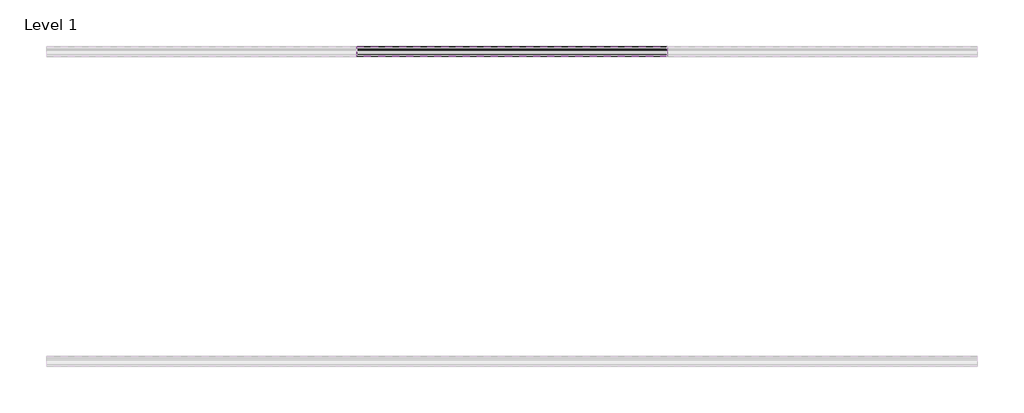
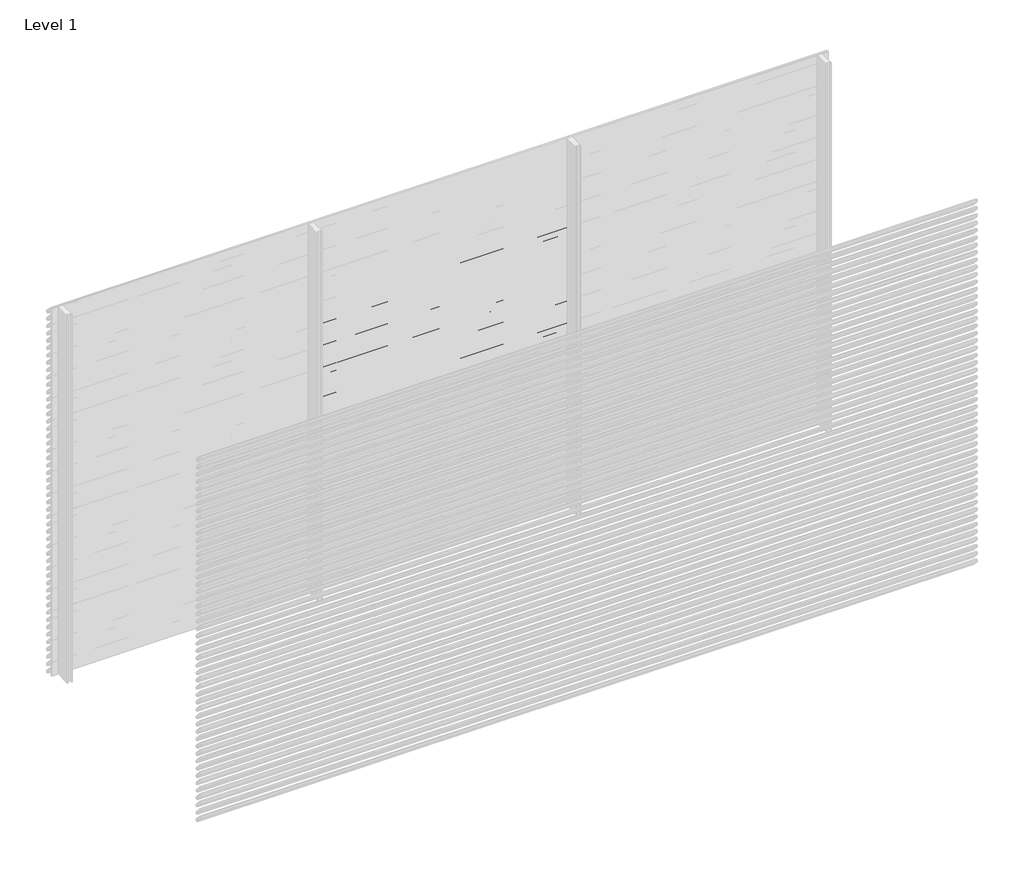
# One storey, part 40 of 153: 33 proxies.
"""IFC4 building model written with IfcOpenShell, lengths in millimetres."""

from ifc_helpers import new_model, si_unit, point, frame, frame_2d, origin, place, context, project, spatial, polyline, circle_curve, trimmed, segment, composite_curve, outline, extrude, element, save

model = new_model("IFC4")

# Units and contexts
model_context = context("Model", 3, world=origin())
ifc_project = project(units=[si_unit("LENGTHUNIT", "METRE", prefix="MILLI")], contexts=[model_context])

# Site, building, storey
site = spatial("IfcSite", under=ifc_project)
building = spatial("IfcBuilding", under=site)
storey = spatial("IfcBuildingStorey", under=building, Name="Level 1", Elevation=0.0)

# Proxies
placement = place(None, origin())
element("IfcBuildingElementProxy", 1, Name="Wall Sweeps", at=placement, inside=storey, context=model_context, shape_type="SweptSolid", body=[
    extrude(outline(composite_curve([segment(polyline([(13985.0540136, 2280.0), (13999.874191, 2278.7034025), (14049.0540136, 2225.0102749), (14049.0540136, 2213.6108187)]), True, "CONTINUOUS"), segment(trimmed(circle_curve(frame_2d((14045.7883652, 2213.897153)), 3.2781774), [point((14049.0540136, 2213.6108187))], [point((14046.4639442, 2210.6893438))], False, "CARTESIAN"), True, "CONTINUOUS"), segment(polyline([(14046.4639442, 2210.6893438), (14034.1895723, 2211.6282758), (13985.0540136, 2265.2730773), (13985.0540136, 2280.0)]), True, "CONTINUOUS")], self_intersect=False), holes=[composite_curve([segment(polyline([(13999.1621773, 2277.2599659), (13986.5540136, 2278.3630372), (13986.5540136, 2265.856213), (14034.8952036, 2213.0786805), (14046.3312542, 2212.2038762)]), True, "CONTINUOUS"), segment(trimmed(circle_curve(frame_2d((14045.7883652, 2213.897153)), 1.7781774), [point((14046.3312542, 2212.2038762))], [point((14047.5540136, 2213.6864389))], True, "CARTESIAN"), True, "CONTINUOUS"), segment(polyline([(14047.5540136, 2213.6864389), (14047.5540136, 2224.4271392), (13999.1621773, 2277.2599659)]), True, "CONTINUOUS")], self_intersect=False)]), frame((46966.6208098, 0.0, 0.0), z_axis=(1.0, 0.0, 0.0), x_axis=(0.0, 1.0, 0.0)), (0.0, 0.0, 1.0), 1999.9999998),
])
element("IfcBuildingElementProxy", 2, Name="Wall Sweeps", at=placement, inside=storey, context=model_context, shape_type="SweptSolid", body=[
    extrude(outline(composite_curve([segment(polyline([(13985.0540136, 2220.0), (13999.874191, 2218.7034025), (14049.0540136, 2165.0102749), (14049.0540136, 2153.6108187)]), True, "CONTINUOUS"), segment(trimmed(circle_curve(frame_2d((14045.7883652, 2153.897153)), 3.2781774), [point((14049.0540136, 2153.6108187))], [point((14046.4639442, 2150.6893438))], False, "CARTESIAN"), True, "CONTINUOUS"), segment(polyline([(14046.4639442, 2150.6893438), (14034.1895723, 2151.6282758), (13985.0540136, 2205.2730773), (13985.0540136, 2220.0)]), True, "CONTINUOUS")], self_intersect=False), holes=[composite_curve([segment(polyline([(13999.1621773, 2217.2599659), (13986.5540136, 2218.3630372), (13986.5540136, 2205.856213), (14034.8952036, 2153.0786805), (14046.3312542, 2152.2038762)]), True, "CONTINUOUS"), segment(trimmed(circle_curve(frame_2d((14045.7883652, 2153.897153)), 1.7781774), [point((14046.3312542, 2152.2038762))], [point((14047.5540136, 2153.6864389))], True, "CARTESIAN"), True, "CONTINUOUS"), segment(polyline([(14047.5540136, 2153.6864389), (14047.5540136, 2164.4271392), (13999.1621773, 2217.2599659)]), True, "CONTINUOUS")], self_intersect=False)]), frame((46966.6208098, 0.0, 0.0), z_axis=(1.0, 0.0, 0.0), x_axis=(0.0, 1.0, 0.0)), (0.0, 0.0, 1.0), 1999.9999998),
])
element("IfcBuildingElementProxy", 3, Name="Wall Sweeps", at=placement, inside=storey, context=model_context, shape_type="SweptSolid", body=[
    extrude(outline(composite_curve([segment(polyline([(13985.0540136, 2160.0), (13999.874191, 2158.7034025), (14049.0540136, 2105.0102749), (14049.0540136, 2093.6108187)]), True, "CONTINUOUS"), segment(trimmed(circle_curve(frame_2d((14045.7883652, 2093.897153)), 3.2781774), [point((14049.0540136, 2093.6108187))], [point((14046.4639442, 2090.6893438))], False, "CARTESIAN"), True, "CONTINUOUS"), segment(polyline([(14046.4639442, 2090.6893438), (14034.1895723, 2091.6282758), (13985.0540136, 2145.2730773), (13985.0540136, 2160.0)]), True, "CONTINUOUS")], self_intersect=False), holes=[composite_curve([segment(polyline([(13999.1621773, 2157.2599659), (13986.5540136, 2158.3630372), (13986.5540136, 2145.856213), (14034.8952036, 2093.0786805), (14046.3312542, 2092.2038762)]), True, "CONTINUOUS"), segment(trimmed(circle_curve(frame_2d((14045.7883652, 2093.897153)), 1.7781774), [point((14046.3312542, 2092.2038762))], [point((14047.5540136, 2093.6864389))], True, "CARTESIAN"), True, "CONTINUOUS"), segment(polyline([(14047.5540136, 2093.6864389), (14047.5540136, 2104.4271392), (13999.1621773, 2157.2599659)]), True, "CONTINUOUS")], self_intersect=False)]), frame((46966.6208098, 0.0, 0.0), z_axis=(1.0, 0.0, 0.0), x_axis=(0.0, 1.0, 0.0)), (0.0, 0.0, 1.0), 1999.9999998),
])
element("IfcBuildingElementProxy", 4, Name="Wall Sweeps", at=placement, inside=storey, context=model_context, shape_type="SweptSolid", body=[
    extrude(outline(composite_curve([segment(polyline([(13985.0540136, 2100.0), (13999.874191, 2098.7034025), (14049.0540136, 2045.0102749), (14049.0540136, 2033.6108187)]), True, "CONTINUOUS"), segment(trimmed(circle_curve(frame_2d((14045.7883652, 2033.897153)), 3.2781774), [point((14049.0540136, 2033.6108187))], [point((14046.4639442, 2030.6893438))], False, "CARTESIAN"), True, "CONTINUOUS"), segment(polyline([(14046.4639442, 2030.6893438), (14034.1895723, 2031.6282758), (13985.0540136, 2085.2730773), (13985.0540136, 2100.0)]), True, "CONTINUOUS")], self_intersect=False), holes=[composite_curve([segment(polyline([(13999.1621773, 2097.2599659), (13986.5540136, 2098.3630372), (13986.5540136, 2085.856213), (14034.8952036, 2033.0786805), (14046.3312542, 2032.2038762)]), True, "CONTINUOUS"), segment(trimmed(circle_curve(frame_2d((14045.7883652, 2033.897153)), 1.7781774), [point((14046.3312542, 2032.2038762))], [point((14047.5540136, 2033.6864389))], True, "CARTESIAN"), True, "CONTINUOUS"), segment(polyline([(14047.5540136, 2033.6864389), (14047.5540136, 2044.4271392), (13999.1621773, 2097.2599659)]), True, "CONTINUOUS")], self_intersect=False)]), frame((46966.6208098, 0.0, 0.0), z_axis=(1.0, 0.0, 0.0), x_axis=(0.0, 1.0, 0.0)), (0.0, 0.0, 1.0), 1999.9999998),
])
element("IfcBuildingElementProxy", 5, Name="Wall Sweeps", at=placement, inside=storey, context=model_context, shape_type="SweptSolid", body=[
    extrude(outline(composite_curve([segment(polyline([(13985.0540136, 2040.0), (13999.874191, 2038.7034025), (14049.0540136, 1985.0102749), (14049.0540136, 1973.6108187)]), True, "CONTINUOUS"), segment(trimmed(circle_curve(frame_2d((14045.7883652, 1973.897153)), 3.2781774), [point((14049.0540136, 1973.6108187))], [point((14046.4639442, 1970.6893438))], False, "CARTESIAN"), True, "CONTINUOUS"), segment(polyline([(14046.4639442, 1970.6893438), (14034.1895723, 1971.6282758), (13985.0540136, 2025.2730773), (13985.0540136, 2040.0)]), True, "CONTINUOUS")], self_intersect=False), holes=[composite_curve([segment(polyline([(13999.1621773, 2037.2599659), (13986.5540136, 2038.3630372), (13986.5540136, 2025.856213), (14034.8952036, 1973.0786805), (14046.3312542, 1972.2038762)]), True, "CONTINUOUS"), segment(trimmed(circle_curve(frame_2d((14045.7883652, 1973.897153)), 1.7781774), [point((14046.3312542, 1972.2038762))], [point((14047.5540136, 1973.6864389))], True, "CARTESIAN"), True, "CONTINUOUS"), segment(polyline([(14047.5540136, 1973.6864389), (14047.5540136, 1984.4271392), (13999.1621773, 2037.2599659)]), True, "CONTINUOUS")], self_intersect=False)]), frame((46966.6208098, 0.0, 0.0), z_axis=(1.0, 0.0, 0.0), x_axis=(0.0, 1.0, 0.0)), (0.0, 0.0, 1.0), 1999.9999998),
])
element("IfcBuildingElementProxy", 6, Name="Wall Sweeps", at=placement, inside=storey, context=model_context, shape_type="SweptSolid", body=[
    extrude(outline(composite_curve([segment(polyline([(13985.0540136, 1980.0), (13999.874191, 1978.7034025), (14049.0540136, 1925.0102749), (14049.0540136, 1913.6108187)]), True, "CONTINUOUS"), segment(trimmed(circle_curve(frame_2d((14045.7883652, 1913.897153)), 3.2781774), [point((14049.0540136, 1913.6108187))], [point((14046.4639442, 1910.6893438))], False, "CARTESIAN"), True, "CONTINUOUS"), segment(polyline([(14046.4639442, 1910.6893438), (14034.1895723, 1911.6282758), (13985.0540136, 1965.2730773), (13985.0540136, 1980.0)]), True, "CONTINUOUS")], self_intersect=False), holes=[composite_curve([segment(polyline([(13999.1621773, 1977.2599659), (13986.5540136, 1978.3630372), (13986.5540136, 1965.856213), (14034.8952036, 1913.0786805), (14046.3312542, 1912.2038762)]), True, "CONTINUOUS"), segment(trimmed(circle_curve(frame_2d((14045.7883652, 1913.897153)), 1.7781774), [point((14046.3312542, 1912.2038762))], [point((14047.5540136, 1913.6864389))], True, "CARTESIAN"), True, "CONTINUOUS"), segment(polyline([(14047.5540136, 1913.6864389), (14047.5540136, 1924.4271392), (13999.1621773, 1977.2599659)]), True, "CONTINUOUS")], self_intersect=False)]), frame((46966.6208098, 0.0, 0.0), z_axis=(1.0, 0.0, 0.0), x_axis=(0.0, 1.0, 0.0)), (0.0, 0.0, 1.0), 1999.9999998),
])
element("IfcBuildingElementProxy", 7, Name="Wall Sweeps", at=placement, inside=storey, context=model_context, shape_type="SweptSolid", body=[
    extrude(outline(composite_curve([segment(polyline([(13985.0540136, 1920.0), (13999.874191, 1918.7034025), (14049.0540136, 1865.0102749), (14049.0540136, 1853.6108187)]), True, "CONTINUOUS"), segment(trimmed(circle_curve(frame_2d((14045.7883652, 1853.897153)), 3.2781774), [point((14049.0540136, 1853.6108187))], [point((14046.4639442, 1850.6893438))], False, "CARTESIAN"), True, "CONTINUOUS"), segment(polyline([(14046.4639442, 1850.6893438), (14034.1895723, 1851.6282758), (13985.0540136, 1905.2730773), (13985.0540136, 1920.0)]), True, "CONTINUOUS")], self_intersect=False), holes=[composite_curve([segment(polyline([(13999.1621773, 1917.2599659), (13986.5540136, 1918.3630372), (13986.5540136, 1905.856213), (14034.8952036, 1853.0786805), (14046.3312542, 1852.2038762)]), True, "CONTINUOUS"), segment(trimmed(circle_curve(frame_2d((14045.7883652, 1853.897153)), 1.7781774), [point((14046.3312542, 1852.2038762))], [point((14047.5540136, 1853.6864389))], True, "CARTESIAN"), True, "CONTINUOUS"), segment(polyline([(14047.5540136, 1853.6864389), (14047.5540136, 1864.4271392), (13999.1621773, 1917.2599659)]), True, "CONTINUOUS")], self_intersect=False)]), frame((46966.6208098, 0.0, 0.0), z_axis=(1.0, 0.0, 0.0), x_axis=(0.0, 1.0, 0.0)), (0.0, 0.0, 1.0), 1999.9999998),
])
element("IfcBuildingElementProxy", 8, Name="Wall Sweeps", at=placement, inside=storey, context=model_context, shape_type="SweptSolid", body=[
    extrude(outline(composite_curve([segment(polyline([(13985.0540136, 1860.0), (13999.874191, 1858.7034025), (14049.0540136, 1805.0102749), (14049.0540136, 1793.6108187)]), True, "CONTINUOUS"), segment(trimmed(circle_curve(frame_2d((14045.7883652, 1793.897153)), 3.2781774), [point((14049.0540136, 1793.6108187))], [point((14046.4639442, 1790.6893438))], False, "CARTESIAN"), True, "CONTINUOUS"), segment(polyline([(14046.4639442, 1790.6893438), (14034.1895723, 1791.6282758), (13985.0540136, 1845.2730773), (13985.0540136, 1860.0)]), True, "CONTINUOUS")], self_intersect=False), holes=[composite_curve([segment(polyline([(13999.1621773, 1857.2599659), (13986.5540136, 1858.3630372), (13986.5540136, 1845.856213), (14034.8952036, 1793.0786805), (14046.3312542, 1792.2038762)]), True, "CONTINUOUS"), segment(trimmed(circle_curve(frame_2d((14045.7883652, 1793.897153)), 1.7781774), [point((14046.3312542, 1792.2038762))], [point((14047.5540136, 1793.6864389))], True, "CARTESIAN"), True, "CONTINUOUS"), segment(polyline([(14047.5540136, 1793.6864389), (14047.5540136, 1804.4271392), (13999.1621773, 1857.2599659)]), True, "CONTINUOUS")], self_intersect=False)]), frame((46966.6208098, 0.0, 0.0), z_axis=(1.0, 0.0, 0.0), x_axis=(0.0, 1.0, 0.0)), (0.0, 0.0, 1.0), 1999.9999998),
])
element("IfcBuildingElementProxy", 9, Name="Wall Sweeps", at=placement, inside=storey, context=model_context, shape_type="SweptSolid", body=[
    extrude(outline(composite_curve([segment(polyline([(13985.0540136, 1800.0), (13999.874191, 1798.7034025), (14049.0540136, 1745.0102749), (14049.0540136, 1733.6108187)]), True, "CONTINUOUS"), segment(trimmed(circle_curve(frame_2d((14045.7883652, 1733.897153)), 3.2781774), [point((14049.0540136, 1733.6108187))], [point((14046.4639442, 1730.6893438))], False, "CARTESIAN"), True, "CONTINUOUS"), segment(polyline([(14046.4639442, 1730.6893438), (14034.1895723, 1731.6282758), (13985.0540136, 1785.2730773), (13985.0540136, 1800.0)]), True, "CONTINUOUS")], self_intersect=False), holes=[composite_curve([segment(polyline([(13999.1621773, 1797.2599659), (13986.5540136, 1798.3630372), (13986.5540136, 1785.856213), (14034.8952036, 1733.0786805), (14046.3312542, 1732.2038762)]), True, "CONTINUOUS"), segment(trimmed(circle_curve(frame_2d((14045.7883652, 1733.897153)), 1.7781774), [point((14046.3312542, 1732.2038762))], [point((14047.5540136, 1733.6864389))], True, "CARTESIAN"), True, "CONTINUOUS"), segment(polyline([(14047.5540136, 1733.6864389), (14047.5540136, 1744.4271392), (13999.1621773, 1797.2599659)]), True, "CONTINUOUS")], self_intersect=False)]), frame((46966.6208098, 0.0, 0.0), z_axis=(1.0, 0.0, 0.0), x_axis=(0.0, 1.0, 0.0)), (0.0, 0.0, 1.0), 1999.9999998),
])
element("IfcBuildingElementProxy", 10, Name="Wall Sweeps", at=placement, inside=storey, context=model_context, shape_type="SweptSolid", body=[
    extrude(outline(composite_curve([segment(polyline([(13985.0540136, 1740.0), (13999.874191, 1738.7034025), (14049.0540136, 1685.0102749), (14049.0540136, 1673.6108187)]), True, "CONTINUOUS"), segment(trimmed(circle_curve(frame_2d((14045.7883652, 1673.897153)), 3.2781774), [point((14049.0540136, 1673.6108187))], [point((14046.4639442, 1670.6893438))], False, "CARTESIAN"), True, "CONTINUOUS"), segment(polyline([(14046.4639442, 1670.6893438), (14034.1895723, 1671.6282758), (13985.0540136, 1725.2730773), (13985.0540136, 1740.0)]), True, "CONTINUOUS")], self_intersect=False), holes=[composite_curve([segment(polyline([(13999.1621773, 1737.2599659), (13986.5540136, 1738.3630372), (13986.5540136, 1725.856213), (14034.8952036, 1673.0786805), (14046.3312542, 1672.2038762)]), True, "CONTINUOUS"), segment(trimmed(circle_curve(frame_2d((14045.7883652, 1673.897153)), 1.7781774), [point((14046.3312542, 1672.2038762))], [point((14047.5540136, 1673.6864389))], True, "CARTESIAN"), True, "CONTINUOUS"), segment(polyline([(14047.5540136, 1673.6864389), (14047.5540136, 1684.4271392), (13999.1621773, 1737.2599659)]), True, "CONTINUOUS")], self_intersect=False)]), frame((46966.6208098, 0.0, 0.0), z_axis=(1.0, 0.0, 0.0), x_axis=(0.0, 1.0, 0.0)), (0.0, 0.0, 1.0), 1999.9999998),
])
element("IfcBuildingElementProxy", 11, Name="Wall Sweeps", at=placement, inside=storey, context=model_context, shape_type="SweptSolid", body=[
    extrude(outline(composite_curve([segment(polyline([(13985.0540136, 1680.0), (13999.874191, 1678.7034025), (14049.0540136, 1625.0102749), (14049.0540136, 1613.6108187)]), True, "CONTINUOUS"), segment(trimmed(circle_curve(frame_2d((14045.7883652, 1613.897153)), 3.2781774), [point((14049.0540136, 1613.6108187))], [point((14046.4639442, 1610.6893438))], False, "CARTESIAN"), True, "CONTINUOUS"), segment(polyline([(14046.4639442, 1610.6893438), (14034.1895723, 1611.6282758), (13985.0540136, 1665.2730773), (13985.0540136, 1680.0)]), True, "CONTINUOUS")], self_intersect=False), holes=[composite_curve([segment(polyline([(13999.1621773, 1677.2599659), (13986.5540136, 1678.3630372), (13986.5540136, 1665.856213), (14034.8952036, 1613.0786805), (14046.3312542, 1612.2038762)]), True, "CONTINUOUS"), segment(trimmed(circle_curve(frame_2d((14045.7883652, 1613.897153)), 1.7781774), [point((14046.3312542, 1612.2038762))], [point((14047.5540136, 1613.6864389))], True, "CARTESIAN"), True, "CONTINUOUS"), segment(polyline([(14047.5540136, 1613.6864389), (14047.5540136, 1624.4271392), (13999.1621773, 1677.2599659)]), True, "CONTINUOUS")], self_intersect=False)]), frame((46966.6208098, 0.0, 0.0), z_axis=(1.0, 0.0, 0.0), x_axis=(0.0, 1.0, 0.0)), (0.0, 0.0, 1.0), 1999.9999998),
])
element("IfcBuildingElementProxy", 12, Name="Wall Sweeps", at=placement, inside=storey, context=model_context, shape_type="SweptSolid", body=[
    extrude(outline(composite_curve([segment(polyline([(13985.0540136, 1620.0), (13999.874191, 1618.7034025), (14049.0540136, 1565.0102749), (14049.0540136, 1553.6108187)]), True, "CONTINUOUS"), segment(trimmed(circle_curve(frame_2d((14045.7883652, 1553.897153)), 3.2781774), [point((14049.0540136, 1553.6108187))], [point((14046.4639442, 1550.6893438))], False, "CARTESIAN"), True, "CONTINUOUS"), segment(polyline([(14046.4639442, 1550.6893438), (14034.1895723, 1551.6282758), (13985.0540136, 1605.2730773), (13985.0540136, 1620.0)]), True, "CONTINUOUS")], self_intersect=False), holes=[composite_curve([segment(polyline([(13999.1621773, 1617.2599659), (13986.5540136, 1618.3630372), (13986.5540136, 1605.856213), (14034.8952036, 1553.0786805), (14046.3312542, 1552.2038762)]), True, "CONTINUOUS"), segment(trimmed(circle_curve(frame_2d((14045.7883652, 1553.897153)), 1.7781774), [point((14046.3312542, 1552.2038762))], [point((14047.5540136, 1553.6864389))], True, "CARTESIAN"), True, "CONTINUOUS"), segment(polyline([(14047.5540136, 1553.6864389), (14047.5540136, 1564.4271392), (13999.1621773, 1617.2599659)]), True, "CONTINUOUS")], self_intersect=False)]), frame((46966.6208098, 0.0, 0.0), z_axis=(1.0, 0.0, 0.0), x_axis=(0.0, 1.0, 0.0)), (0.0, 0.0, 1.0), 1999.9999998),
])
element("IfcBuildingElementProxy", 13, Name="Wall Sweeps", at=placement, inside=storey, context=model_context, shape_type="SweptSolid", body=[
    extrude(outline(composite_curve([segment(polyline([(13985.0540136, 1560.0), (13999.874191, 1558.7034025), (14049.0540136, 1505.0102749), (14049.0540136, 1493.6108187)]), True, "CONTINUOUS"), segment(trimmed(circle_curve(frame_2d((14045.7883652, 1493.897153)), 3.2781774), [point((14049.0540136, 1493.6108187))], [point((14046.4639442, 1490.6893438))], False, "CARTESIAN"), True, "CONTINUOUS"), segment(polyline([(14046.4639442, 1490.6893438), (14034.1895723, 1491.6282758), (13985.0540136, 1545.2730773), (13985.0540136, 1560.0)]), True, "CONTINUOUS")], self_intersect=False), holes=[composite_curve([segment(polyline([(13999.1621773, 1557.2599659), (13986.5540136, 1558.3630372), (13986.5540136, 1545.856213), (14034.8952036, 1493.0786805), (14046.3312542, 1492.2038762)]), True, "CONTINUOUS"), segment(trimmed(circle_curve(frame_2d((14045.7883652, 1493.897153)), 1.7781774), [point((14046.3312542, 1492.2038762))], [point((14047.5540136, 1493.6864389))], True, "CARTESIAN"), True, "CONTINUOUS"), segment(polyline([(14047.5540136, 1493.6864389), (14047.5540136, 1504.4271392), (13999.1621773, 1557.2599659)]), True, "CONTINUOUS")], self_intersect=False)]), frame((46966.6208098, 0.0, 0.0), z_axis=(1.0, 0.0, 0.0), x_axis=(0.0, 1.0, 0.0)), (0.0, 0.0, 1.0), 1999.9999998),
])
element("IfcBuildingElementProxy", 14, Name="Wall Sweeps", at=placement, inside=storey, context=model_context, shape_type="SweptSolid", body=[
    extrude(outline(composite_curve([segment(polyline([(13985.0540136, 1500.0), (13999.874191, 1498.7034025), (14049.0540136, 1445.0102749), (14049.0540136, 1433.6108187)]), True, "CONTINUOUS"), segment(trimmed(circle_curve(frame_2d((14045.7883652, 1433.897153)), 3.2781774), [point((14049.0540136, 1433.6108187))], [point((14046.4639442, 1430.6893438))], False, "CARTESIAN"), True, "CONTINUOUS"), segment(polyline([(14046.4639442, 1430.6893438), (14034.1895723, 1431.6282758), (13985.0540136, 1485.2730773), (13985.0540136, 1500.0)]), True, "CONTINUOUS")], self_intersect=False), holes=[composite_curve([segment(polyline([(13999.1621773, 1497.2599659), (13986.5540136, 1498.3630372), (13986.5540136, 1485.856213), (14034.8952036, 1433.0786805), (14046.3312542, 1432.2038762)]), True, "CONTINUOUS"), segment(trimmed(circle_curve(frame_2d((14045.7883652, 1433.897153)), 1.7781774), [point((14046.3312542, 1432.2038762))], [point((14047.5540136, 1433.6864389))], True, "CARTESIAN"), True, "CONTINUOUS"), segment(polyline([(14047.5540136, 1433.6864389), (14047.5540136, 1444.4271392), (13999.1621773, 1497.2599659)]), True, "CONTINUOUS")], self_intersect=False)]), frame((46966.6208098, 0.0, 0.0), z_axis=(1.0, 0.0, 0.0), x_axis=(0.0, 1.0, 0.0)), (0.0, 0.0, 1.0), 1999.9999998),
])
element("IfcBuildingElementProxy", 15, Name="Wall Sweeps", at=placement, inside=storey, context=model_context, shape_type="SweptSolid", body=[
    extrude(outline(composite_curve([segment(polyline([(13985.0540136, 1440.0), (13999.874191, 1438.7034025), (14049.0540136, 1385.0102749), (14049.0540136, 1373.6108187)]), True, "CONTINUOUS"), segment(trimmed(circle_curve(frame_2d((14045.7883652, 1373.897153)), 3.2781774), [point((14049.0540136, 1373.6108187))], [point((14046.4639442, 1370.6893438))], False, "CARTESIAN"), True, "CONTINUOUS"), segment(polyline([(14046.4639442, 1370.6893438), (14034.1895723, 1371.6282758), (13985.0540136, 1425.2730773), (13985.0540136, 1440.0)]), True, "CONTINUOUS")], self_intersect=False), holes=[composite_curve([segment(polyline([(13999.1621773, 1437.2599659), (13986.5540136, 1438.3630372), (13986.5540136, 1425.856213), (14034.8952036, 1373.0786805), (14046.3312542, 1372.2038762)]), True, "CONTINUOUS"), segment(trimmed(circle_curve(frame_2d((14045.7883652, 1373.897153)), 1.7781774), [point((14046.3312542, 1372.2038762))], [point((14047.5540136, 1373.6864389))], True, "CARTESIAN"), True, "CONTINUOUS"), segment(polyline([(14047.5540136, 1373.6864389), (14047.5540136, 1384.4271392), (13999.1621773, 1437.2599659)]), True, "CONTINUOUS")], self_intersect=False)]), frame((46966.6208098, 0.0, 0.0), z_axis=(1.0, 0.0, 0.0), x_axis=(0.0, 1.0, 0.0)), (0.0, 0.0, 1.0), 1999.9999998),
])
element("IfcBuildingElementProxy", 16, Name="Wall Sweeps", at=placement, inside=storey, context=model_context, shape_type="SweptSolid", body=[
    extrude(outline(composite_curve([segment(polyline([(13985.0540136, 1380.0), (13999.874191, 1378.7034025), (14049.0540136, 1325.0102749), (14049.0540136, 1313.6108187)]), True, "CONTINUOUS"), segment(trimmed(circle_curve(frame_2d((14045.7883652, 1313.897153)), 3.2781774), [point((14049.0540136, 1313.6108187))], [point((14046.4639442, 1310.6893438))], False, "CARTESIAN"), True, "CONTINUOUS"), segment(polyline([(14046.4639442, 1310.6893438), (14034.1895723, 1311.6282758), (13985.0540136, 1365.2730773), (13985.0540136, 1380.0)]), True, "CONTINUOUS")], self_intersect=False), holes=[composite_curve([segment(polyline([(13999.1621773, 1377.2599659), (13986.5540136, 1378.3630372), (13986.5540136, 1365.856213), (14034.8952036, 1313.0786805), (14046.3312542, 1312.2038762)]), True, "CONTINUOUS"), segment(trimmed(circle_curve(frame_2d((14045.7883652, 1313.897153)), 1.7781774), [point((14046.3312542, 1312.2038762))], [point((14047.5540136, 1313.6864389))], True, "CARTESIAN"), True, "CONTINUOUS"), segment(polyline([(14047.5540136, 1313.6864389), (14047.5540136, 1324.4271392), (13999.1621773, 1377.2599659)]), True, "CONTINUOUS")], self_intersect=False)]), frame((46966.6208098, 0.0, 0.0), z_axis=(1.0, 0.0, 0.0), x_axis=(0.0, 1.0, 0.0)), (0.0, 0.0, 1.0), 1999.9999998),
])
element("IfcBuildingElementProxy", 17, Name="Wall Sweeps", at=placement, inside=storey, context=model_context, shape_type="SweptSolid", body=[
    extrude(outline(composite_curve([segment(polyline([(13985.0540136, 1320.0), (13999.874191, 1318.7034025), (14049.0540136, 1265.0102749), (14049.0540136, 1253.6108187)]), True, "CONTINUOUS"), segment(trimmed(circle_curve(frame_2d((14045.7883652, 1253.897153)), 3.2781774), [point((14049.0540136, 1253.6108187))], [point((14046.4639442, 1250.6893438))], False, "CARTESIAN"), True, "CONTINUOUS"), segment(polyline([(14046.4639442, 1250.6893438), (14034.1895723, 1251.6282758), (13985.0540136, 1305.2730773), (13985.0540136, 1320.0)]), True, "CONTINUOUS")], self_intersect=False), holes=[composite_curve([segment(polyline([(13999.1621773, 1317.2599659), (13986.5540136, 1318.3630372), (13986.5540136, 1305.856213), (14034.8952036, 1253.0786805), (14046.3312542, 1252.2038762)]), True, "CONTINUOUS"), segment(trimmed(circle_curve(frame_2d((14045.7883652, 1253.897153)), 1.7781774), [point((14046.3312542, 1252.2038762))], [point((14047.5540136, 1253.6864389))], True, "CARTESIAN"), True, "CONTINUOUS"), segment(polyline([(14047.5540136, 1253.6864389), (14047.5540136, 1264.4271392), (13999.1621773, 1317.2599659)]), True, "CONTINUOUS")], self_intersect=False)]), frame((46966.6208098, 0.0, 0.0), z_axis=(1.0, 0.0, 0.0), x_axis=(0.0, 1.0, 0.0)), (0.0, 0.0, 1.0), 1999.9999998),
])
element("IfcBuildingElementProxy", 18, Name="Wall Sweeps", at=placement, inside=storey, context=model_context, shape_type="SweptSolid", body=[
    extrude(outline(composite_curve([segment(polyline([(13985.0540136, 1260.0), (13999.874191, 1258.7034025), (14049.0540136, 1205.0102749), (14049.0540136, 1193.6108187)]), True, "CONTINUOUS"), segment(trimmed(circle_curve(frame_2d((14045.7883652, 1193.897153)), 3.2781774), [point((14049.0540136, 1193.6108187))], [point((14046.4639442, 1190.6893438))], False, "CARTESIAN"), True, "CONTINUOUS"), segment(polyline([(14046.4639442, 1190.6893438), (14034.1895723, 1191.6282758), (13985.0540136, 1245.2730773), (13985.0540136, 1260.0)]), True, "CONTINUOUS")], self_intersect=False), holes=[composite_curve([segment(polyline([(13999.1621773, 1257.2599659), (13986.5540136, 1258.3630372), (13986.5540136, 1245.856213), (14034.8952036, 1193.0786805), (14046.3312542, 1192.2038762)]), True, "CONTINUOUS"), segment(trimmed(circle_curve(frame_2d((14045.7883652, 1193.897153)), 1.7781774), [point((14046.3312542, 1192.2038762))], [point((14047.5540136, 1193.6864389))], True, "CARTESIAN"), True, "CONTINUOUS"), segment(polyline([(14047.5540136, 1193.6864389), (14047.5540136, 1204.4271392), (13999.1621773, 1257.2599659)]), True, "CONTINUOUS")], self_intersect=False)]), frame((46966.6208098, 0.0, 0.0), z_axis=(1.0, 0.0, 0.0), x_axis=(0.0, 1.0, 0.0)), (0.0, 0.0, 1.0), 1999.9999998),
])
element("IfcBuildingElementProxy", 19, Name="Wall Sweeps", at=placement, inside=storey, context=model_context, shape_type="SweptSolid", body=[
    extrude(outline(composite_curve([segment(polyline([(13985.0540136, 1200.0), (13999.874191, 1198.7034025), (14049.0540136, 1145.0102749), (14049.0540136, 1133.6108187)]), True, "CONTINUOUS"), segment(trimmed(circle_curve(frame_2d((14045.7883652, 1133.897153)), 3.2781774), [point((14049.0540136, 1133.6108187))], [point((14046.4639442, 1130.6893438))], False, "CARTESIAN"), True, "CONTINUOUS"), segment(polyline([(14046.4639442, 1130.6893438), (14034.1895723, 1131.6282758), (13985.0540136, 1185.2730773), (13985.0540136, 1200.0)]), True, "CONTINUOUS")], self_intersect=False), holes=[composite_curve([segment(polyline([(13999.1621773, 1197.2599659), (13986.5540136, 1198.3630372), (13986.5540136, 1185.856213), (14034.8952036, 1133.0786805), (14046.3312542, 1132.2038762)]), True, "CONTINUOUS"), segment(trimmed(circle_curve(frame_2d((14045.7883652, 1133.897153)), 1.7781774), [point((14046.3312542, 1132.2038762))], [point((14047.5540136, 1133.6864389))], True, "CARTESIAN"), True, "CONTINUOUS"), segment(polyline([(14047.5540136, 1133.6864389), (14047.5540136, 1144.4271392), (13999.1621773, 1197.2599659)]), True, "CONTINUOUS")], self_intersect=False)]), frame((46966.6208098, 0.0, 0.0), z_axis=(1.0, 0.0, 0.0), x_axis=(0.0, 1.0, 0.0)), (0.0, 0.0, 1.0), 1999.9999998),
])
element("IfcBuildingElementProxy", 20, Name="Wall Sweeps", at=placement, inside=storey, context=model_context, shape_type="SweptSolid", body=[
    extrude(outline(composite_curve([segment(polyline([(13985.0540136, 1140.0), (13999.874191, 1138.7034025), (14049.0540136, 1085.0102749), (14049.0540136, 1073.6108187)]), True, "CONTINUOUS"), segment(trimmed(circle_curve(frame_2d((14045.7883652, 1073.897153)), 3.2781774), [point((14049.0540136, 1073.6108187))], [point((14046.4639442, 1070.6893438))], False, "CARTESIAN"), True, "CONTINUOUS"), segment(polyline([(14046.4639442, 1070.6893438), (14034.1895723, 1071.6282758), (13985.0540136, 1125.2730773), (13985.0540136, 1140.0)]), True, "CONTINUOUS")], self_intersect=False), holes=[composite_curve([segment(polyline([(13999.1621773, 1137.2599659), (13986.5540136, 1138.3630372), (13986.5540136, 1125.856213), (14034.8952036, 1073.0786805), (14046.3312542, 1072.2038762)]), True, "CONTINUOUS"), segment(trimmed(circle_curve(frame_2d((14045.7883652, 1073.897153)), 1.7781774), [point((14046.3312542, 1072.2038762))], [point((14047.5540136, 1073.6864389))], True, "CARTESIAN"), True, "CONTINUOUS"), segment(polyline([(14047.5540136, 1073.6864389), (14047.5540136, 1084.4271392), (13999.1621773, 1137.2599659)]), True, "CONTINUOUS")], self_intersect=False)]), frame((46966.6208098, 0.0, 0.0), z_axis=(1.0, 0.0, 0.0), x_axis=(0.0, 1.0, 0.0)), (0.0, 0.0, 1.0), 1999.9999998),
])
element("IfcBuildingElementProxy", 21, Name="Wall Sweeps", at=placement, inside=storey, context=model_context, shape_type="SweptSolid", body=[
    extrude(outline(composite_curve([segment(polyline([(13985.0540136, 1080.0), (13999.874191, 1078.7034025), (14049.0540136, 1025.0102749), (14049.0540136, 1013.6108187)]), True, "CONTINUOUS"), segment(trimmed(circle_curve(frame_2d((14045.7883652, 1013.897153)), 3.2781774), [point((14049.0540136, 1013.6108187))], [point((14046.4639442, 1010.6893438))], False, "CARTESIAN"), True, "CONTINUOUS"), segment(polyline([(14046.4639442, 1010.6893438), (14034.1895723, 1011.6282758), (13985.0540136, 1065.2730773), (13985.0540136, 1080.0)]), True, "CONTINUOUS")], self_intersect=False), holes=[composite_curve([segment(polyline([(13999.1621773, 1077.2599659), (13986.5540136, 1078.3630372), (13986.5540136, 1065.856213), (14034.8952036, 1013.0786805), (14046.3312542, 1012.2038762)]), True, "CONTINUOUS"), segment(trimmed(circle_curve(frame_2d((14045.7883652, 1013.897153)), 1.7781774), [point((14046.3312542, 1012.2038762))], [point((14047.5540136, 1013.6864389))], True, "CARTESIAN"), True, "CONTINUOUS"), segment(polyline([(14047.5540136, 1013.6864389), (14047.5540136, 1024.4271392), (13999.1621773, 1077.2599659)]), True, "CONTINUOUS")], self_intersect=False)]), frame((46966.6208098, 0.0, 0.0), z_axis=(1.0, 0.0, 0.0), x_axis=(0.0, 1.0, 0.0)), (0.0, 0.0, 1.0), 1999.9999998),
])
element("IfcBuildingElementProxy", 22, Name="Wall Sweeps", at=placement, inside=storey, context=model_context, shape_type="SweptSolid", body=[
    extrude(outline(composite_curve([segment(polyline([(13985.0540136, 1020.0), (13999.874191, 1018.7034025), (14049.0540136, 965.0102749), (14049.0540136, 953.6108187)]), True, "CONTINUOUS"), segment(trimmed(circle_curve(frame_2d((14045.7883652, 953.897153)), 3.2781774), [point((14049.0540136, 953.6108187))], [point((14046.4639442, 950.6893438))], False, "CARTESIAN"), True, "CONTINUOUS"), segment(polyline([(14046.4639442, 950.6893438), (14034.1895723, 951.6282758), (13985.0540136, 1005.2730773), (13985.0540136, 1020.0)]), True, "CONTINUOUS")], self_intersect=False), holes=[composite_curve([segment(polyline([(13999.1621773, 1017.2599659), (13986.5540136, 1018.3630372), (13986.5540136, 1005.856213), (14034.8952036, 953.0786805), (14046.3312542, 952.2038762)]), True, "CONTINUOUS"), segment(trimmed(circle_curve(frame_2d((14045.7883652, 953.897153)), 1.7781774), [point((14046.3312542, 952.2038762))], [point((14047.5540136, 953.6864389))], True, "CARTESIAN"), True, "CONTINUOUS"), segment(polyline([(14047.5540136, 953.6864389), (14047.5540136, 964.4271392), (13999.1621773, 1017.2599659)]), True, "CONTINUOUS")], self_intersect=False)]), frame((46966.6208098, 0.0, 0.0), z_axis=(1.0, 0.0, 0.0), x_axis=(0.0, 1.0, 0.0)), (0.0, 0.0, 1.0), 1999.9999998),
])
element("IfcBuildingElementProxy", 23, Name="Wall Sweeps", at=placement, inside=storey, context=model_context, shape_type="SweptSolid", body=[
    extrude(outline(composite_curve([segment(polyline([(13985.0540136, 960.0), (13999.874191, 958.7034025), (14049.0540136, 905.0102749), (14049.0540136, 893.6108187)]), True, "CONTINUOUS"), segment(trimmed(circle_curve(frame_2d((14045.7883652, 893.897153)), 3.2781774), [point((14049.0540136, 893.6108187))], [point((14046.4639442, 890.6893438))], False, "CARTESIAN"), True, "CONTINUOUS"), segment(polyline([(14046.4639442, 890.6893438), (14034.1895723, 891.6282758), (13985.0540136, 945.2730773), (13985.0540136, 960.0)]), True, "CONTINUOUS")], self_intersect=False), holes=[composite_curve([segment(polyline([(13999.1621773, 957.2599659), (13986.5540136, 958.3630372), (13986.5540136, 945.856213), (14034.8952036, 893.0786805), (14046.3312542, 892.2038762)]), True, "CONTINUOUS"), segment(trimmed(circle_curve(frame_2d((14045.7883652, 893.897153)), 1.7781774), [point((14046.3312542, 892.2038762))], [point((14047.5540136, 893.6864389))], True, "CARTESIAN"), True, "CONTINUOUS"), segment(polyline([(14047.5540136, 893.6864389), (14047.5540136, 904.4271392), (13999.1621773, 957.2599659)]), True, "CONTINUOUS")], self_intersect=False)]), frame((46966.6208098, 0.0, 0.0), z_axis=(1.0, 0.0, 0.0), x_axis=(0.0, 1.0, 0.0)), (0.0, 0.0, 1.0), 1999.9999998),
])
element("IfcBuildingElementProxy", 24, Name="Wall Sweeps", at=placement, inside=storey, context=model_context, shape_type="SweptSolid", body=[
    extrude(outline(composite_curve([segment(polyline([(13985.0540136, 900.0), (13999.874191, 898.7034025), (14049.0540136, 845.0102749), (14049.0540136, 833.6108187)]), True, "CONTINUOUS"), segment(trimmed(circle_curve(frame_2d((14045.7883652, 833.897153)), 3.2781774), [point((14049.0540136, 833.6108187))], [point((14046.4639442, 830.6893438))], False, "CARTESIAN"), True, "CONTINUOUS"), segment(polyline([(14046.4639442, 830.6893438), (14034.1895723, 831.6282758), (13985.0540136, 885.2730773), (13985.0540136, 900.0)]), True, "CONTINUOUS")], self_intersect=False), holes=[composite_curve([segment(polyline([(13999.1621773, 897.2599659), (13986.5540136, 898.3630372), (13986.5540136, 885.856213), (14034.8952036, 833.0786805), (14046.3312542, 832.2038762)]), True, "CONTINUOUS"), segment(trimmed(circle_curve(frame_2d((14045.7883652, 833.897153)), 1.7781774), [point((14046.3312542, 832.2038762))], [point((14047.5540136, 833.6864389))], True, "CARTESIAN"), True, "CONTINUOUS"), segment(polyline([(14047.5540136, 833.6864389), (14047.5540136, 844.4271392), (13999.1621773, 897.2599659)]), True, "CONTINUOUS")], self_intersect=False)]), frame((46966.6208098, 0.0, 0.0), z_axis=(1.0, 0.0, 0.0), x_axis=(0.0, 1.0, 0.0)), (0.0, 0.0, 1.0), 1999.9999998),
])
element("IfcBuildingElementProxy", 25, Name="Wall Sweeps", at=placement, inside=storey, context=model_context, shape_type="SweptSolid", body=[
    extrude(outline(composite_curve([segment(polyline([(13985.0540136, 840.0), (13999.874191, 838.7034025), (14049.0540136, 785.0102749), (14049.0540136, 773.6108187)]), True, "CONTINUOUS"), segment(trimmed(circle_curve(frame_2d((14045.7883652, 773.897153)), 3.2781774), [point((14049.0540136, 773.6108187))], [point((14046.4639442, 770.6893438))], False, "CARTESIAN"), True, "CONTINUOUS"), segment(polyline([(14046.4639442, 770.6893438), (14034.1895723, 771.6282758), (13985.0540136, 825.2730773), (13985.0540136, 840.0)]), True, "CONTINUOUS")], self_intersect=False), holes=[composite_curve([segment(polyline([(13999.1621773, 837.2599659), (13986.5540136, 838.3630372), (13986.5540136, 825.856213), (14034.8952036, 773.0786805), (14046.3312542, 772.2038762)]), True, "CONTINUOUS"), segment(trimmed(circle_curve(frame_2d((14045.7883652, 773.897153)), 1.7781774), [point((14046.3312542, 772.2038762))], [point((14047.5540136, 773.6864389))], True, "CARTESIAN"), True, "CONTINUOUS"), segment(polyline([(14047.5540136, 773.6864389), (14047.5540136, 784.4271392), (13999.1621773, 837.2599659)]), True, "CONTINUOUS")], self_intersect=False)]), frame((46966.6208098, 0.0, 0.0), z_axis=(1.0, 0.0, 0.0), x_axis=(0.0, 1.0, 0.0)), (0.0, 0.0, 1.0), 1999.9999998),
])
element("IfcBuildingElementProxy", 26, Name="Wall Sweeps", at=placement, inside=storey, context=model_context, shape_type="SweptSolid", body=[
    extrude(outline(composite_curve([segment(polyline([(13985.0540136, 780.0), (13999.874191, 778.7034025), (14049.0540136, 725.0102749), (14049.0540136, 713.6108187)]), True, "CONTINUOUS"), segment(trimmed(circle_curve(frame_2d((14045.7883652, 713.897153)), 3.2781774), [point((14049.0540136, 713.6108187))], [point((14046.4639442, 710.6893438))], False, "CARTESIAN"), True, "CONTINUOUS"), segment(polyline([(14046.4639442, 710.6893438), (14034.1895723, 711.6282758), (13985.0540136, 765.2730773), (13985.0540136, 780.0)]), True, "CONTINUOUS")], self_intersect=False), holes=[composite_curve([segment(polyline([(13999.1621773, 777.2599659), (13986.5540136, 778.3630372), (13986.5540136, 765.856213), (14034.8952036, 713.0786805), (14046.3312542, 712.2038762)]), True, "CONTINUOUS"), segment(trimmed(circle_curve(frame_2d((14045.7883652, 713.897153)), 1.7781774), [point((14046.3312542, 712.2038762))], [point((14047.5540136, 713.6864389))], True, "CARTESIAN"), True, "CONTINUOUS"), segment(polyline([(14047.5540136, 713.6864389), (14047.5540136, 724.4271392), (13999.1621773, 777.2599659)]), True, "CONTINUOUS")], self_intersect=False)]), frame((46966.6208098, 0.0, 0.0), z_axis=(1.0, 0.0, 0.0), x_axis=(0.0, 1.0, 0.0)), (0.0, 0.0, 1.0), 1999.9999998),
])
element("IfcBuildingElementProxy", 27, Name="Wall Sweeps", at=placement, inside=storey, context=model_context, shape_type="SweptSolid", body=[
    extrude(outline(composite_curve([segment(polyline([(13985.0540136, 720.0), (13999.874191, 718.7034025), (14049.0540136, 665.0102749), (14049.0540136, 653.6108187)]), True, "CONTINUOUS"), segment(trimmed(circle_curve(frame_2d((14045.7883652, 653.897153)), 3.2781774), [point((14049.0540136, 653.6108187))], [point((14046.4639442, 650.6893438))], False, "CARTESIAN"), True, "CONTINUOUS"), segment(polyline([(14046.4639442, 650.6893438), (14034.1895723, 651.6282758), (13985.0540136, 705.2730773), (13985.0540136, 720.0)]), True, "CONTINUOUS")], self_intersect=False), holes=[composite_curve([segment(polyline([(13999.1621773, 717.2599659), (13986.5540136, 718.3630372), (13986.5540136, 705.856213), (14034.8952036, 653.0786805), (14046.3312542, 652.2038762)]), True, "CONTINUOUS"), segment(trimmed(circle_curve(frame_2d((14045.7883652, 653.897153)), 1.7781774), [point((14046.3312542, 652.2038762))], [point((14047.5540136, 653.6864389))], True, "CARTESIAN"), True, "CONTINUOUS"), segment(polyline([(14047.5540136, 653.6864389), (14047.5540136, 664.4271392), (13999.1621773, 717.2599659)]), True, "CONTINUOUS")], self_intersect=False)]), frame((46966.6208098, 0.0, 0.0), z_axis=(1.0, 0.0, 0.0), x_axis=(0.0, 1.0, 0.0)), (0.0, 0.0, 1.0), 1999.9999998),
])
element("IfcBuildingElementProxy", 28, Name="Wall Sweeps", at=placement, inside=storey, context=model_context, shape_type="SweptSolid", body=[
    extrude(outline(composite_curve([segment(polyline([(13985.0540136, 660.0), (13999.874191, 658.7034025), (14049.0540136, 605.0102749), (14049.0540136, 593.6108187)]), True, "CONTINUOUS"), segment(trimmed(circle_curve(frame_2d((14045.7883652, 593.897153)), 3.2781774), [point((14049.0540136, 593.6108187))], [point((14046.4639442, 590.6893438))], False, "CARTESIAN"), True, "CONTINUOUS"), segment(polyline([(14046.4639442, 590.6893438), (14034.1895723, 591.6282758), (13985.0540136, 645.2730773), (13985.0540136, 660.0)]), True, "CONTINUOUS")], self_intersect=False), holes=[composite_curve([segment(polyline([(13999.1621773, 657.2599659), (13986.5540136, 658.3630372), (13986.5540136, 645.856213), (14034.8952036, 593.0786805), (14046.3312542, 592.2038762)]), True, "CONTINUOUS"), segment(trimmed(circle_curve(frame_2d((14045.7883652, 593.897153)), 1.7781774), [point((14046.3312542, 592.2038762))], [point((14047.5540136, 593.6864389))], True, "CARTESIAN"), True, "CONTINUOUS"), segment(polyline([(14047.5540136, 593.6864389), (14047.5540136, 604.4271392), (13999.1621773, 657.2599659)]), True, "CONTINUOUS")], self_intersect=False)]), frame((46966.6208098, 0.0, 0.0), z_axis=(1.0, 0.0, 0.0), x_axis=(0.0, 1.0, 0.0)), (0.0, 0.0, 1.0), 1999.9999998),
])
element("IfcBuildingElementProxy", 29, Name="Wall Sweeps", at=placement, inside=storey, context=model_context, shape_type="SweptSolid", body=[
    extrude(outline(composite_curve([segment(polyline([(13985.0540136, 600.0), (13999.874191, 598.7034025), (14049.0540136, 545.0102749), (14049.0540136, 533.6108187)]), True, "CONTINUOUS"), segment(trimmed(circle_curve(frame_2d((14045.7883652, 533.897153)), 3.2781774), [point((14049.0540136, 533.6108187))], [point((14046.4639442, 530.6893438))], False, "CARTESIAN"), True, "CONTINUOUS"), segment(polyline([(14046.4639442, 530.6893438), (14034.1895723, 531.6282758), (13985.0540136, 585.2730773), (13985.0540136, 600.0)]), True, "CONTINUOUS")], self_intersect=False), holes=[composite_curve([segment(polyline([(13999.1621773, 597.2599659), (13986.5540136, 598.3630372), (13986.5540136, 585.856213), (14034.8952036, 533.0786805), (14046.3312542, 532.2038762)]), True, "CONTINUOUS"), segment(trimmed(circle_curve(frame_2d((14045.7883652, 533.897153)), 1.7781774), [point((14046.3312542, 532.2038762))], [point((14047.5540136, 533.6864389))], True, "CARTESIAN"), True, "CONTINUOUS"), segment(polyline([(14047.5540136, 533.6864389), (14047.5540136, 544.4271392), (13999.1621773, 597.2599659)]), True, "CONTINUOUS")], self_intersect=False)]), frame((46966.6208098, 0.0, 0.0), z_axis=(1.0, 0.0, 0.0), x_axis=(0.0, 1.0, 0.0)), (0.0, 0.0, 1.0), 1999.9999998),
])
element("IfcBuildingElementProxy", 30, Name="Wall Sweeps", at=placement, inside=storey, context=model_context, shape_type="SweptSolid", body=[
    extrude(outline(composite_curve([segment(polyline([(13985.0540136, 540.0), (13999.874191, 538.7034025), (14049.0540136, 485.0102749), (14049.0540136, 473.6108187)]), True, "CONTINUOUS"), segment(trimmed(circle_curve(frame_2d((14045.7883652, 473.897153)), 3.2781774), [point((14049.0540136, 473.6108187))], [point((14046.4639442, 470.6893438))], False, "CARTESIAN"), True, "CONTINUOUS"), segment(polyline([(14046.4639442, 470.6893438), (14034.1895723, 471.6282758), (13985.0540136, 525.2730773), (13985.0540136, 540.0)]), True, "CONTINUOUS")], self_intersect=False), holes=[composite_curve([segment(polyline([(13999.1621773, 537.2599659), (13986.5540136, 538.3630372), (13986.5540136, 525.856213), (14034.8952036, 473.0786805), (14046.3312542, 472.2038762)]), True, "CONTINUOUS"), segment(trimmed(circle_curve(frame_2d((14045.7883652, 473.897153)), 1.7781774), [point((14046.3312542, 472.2038762))], [point((14047.5540136, 473.6864389))], True, "CARTESIAN"), True, "CONTINUOUS"), segment(polyline([(14047.5540136, 473.6864389), (14047.5540136, 484.4271392), (13999.1621773, 537.2599659)]), True, "CONTINUOUS")], self_intersect=False)]), frame((46966.6208098, 0.0, 0.0), z_axis=(1.0, 0.0, 0.0), x_axis=(0.0, 1.0, 0.0)), (0.0, 0.0, 1.0), 1999.9999998),
])
element("IfcBuildingElementProxy", 31, Name="Wall Sweeps", at=placement, inside=storey, context=model_context, shape_type="SweptSolid", body=[
    extrude(outline(composite_curve([segment(polyline([(13985.0540136, 480.0), (13999.874191, 478.7034025), (14049.0540136, 425.0102749), (14049.0540136, 413.6108187)]), True, "CONTINUOUS"), segment(trimmed(circle_curve(frame_2d((14045.7883652, 413.897153)), 3.2781774), [point((14049.0540136, 413.6108187))], [point((14046.4639442, 410.6893438))], False, "CARTESIAN"), True, "CONTINUOUS"), segment(polyline([(14046.4639442, 410.6893438), (14034.1895723, 411.6282758), (13985.0540136, 465.2730773), (13985.0540136, 480.0)]), True, "CONTINUOUS")], self_intersect=False), holes=[composite_curve([segment(polyline([(13999.1621773, 477.2599659), (13986.5540136, 478.3630372), (13986.5540136, 465.856213), (14034.8952036, 413.0786805), (14046.3312542, 412.2038762)]), True, "CONTINUOUS"), segment(trimmed(circle_curve(frame_2d((14045.7883652, 413.897153)), 1.7781774), [point((14046.3312542, 412.2038762))], [point((14047.5540136, 413.6864389))], True, "CARTESIAN"), True, "CONTINUOUS"), segment(polyline([(14047.5540136, 413.6864389), (14047.5540136, 424.4271392), (13999.1621773, 477.2599659)]), True, "CONTINUOUS")], self_intersect=False)]), frame((46966.6208098, 0.0, 0.0), z_axis=(1.0, 0.0, 0.0), x_axis=(0.0, 1.0, 0.0)), (0.0, 0.0, 1.0), 1999.9999998),
])
element("IfcBuildingElementProxy", 32, Name="Wall Sweeps", at=placement, inside=storey, context=model_context, shape_type="SweptSolid", body=[
    extrude(outline(composite_curve([segment(polyline([(13985.0540136, 420.0), (13999.874191, 418.7034025), (14049.0540136, 365.0102749), (14049.0540136, 353.6108187)]), True, "CONTINUOUS"), segment(trimmed(circle_curve(frame_2d((14045.7883652, 353.897153)), 3.2781774), [point((14049.0540136, 353.6108187))], [point((14046.4639442, 350.6893438))], False, "CARTESIAN"), True, "CONTINUOUS"), segment(polyline([(14046.4639442, 350.6893438), (14034.1895723, 351.6282758), (13985.0540136, 405.2730773), (13985.0540136, 420.0)]), True, "CONTINUOUS")], self_intersect=False), holes=[composite_curve([segment(polyline([(13999.1621773, 417.2599659), (13986.5540136, 418.3630372), (13986.5540136, 405.856213), (14034.8952036, 353.0786805), (14046.3312542, 352.2038762)]), True, "CONTINUOUS"), segment(trimmed(circle_curve(frame_2d((14045.7883652, 353.897153)), 1.7781774), [point((14046.3312542, 352.2038762))], [point((14047.5540136, 353.6864389))], True, "CARTESIAN"), True, "CONTINUOUS"), segment(polyline([(14047.5540136, 353.6864389), (14047.5540136, 364.4271392), (13999.1621773, 417.2599659)]), True, "CONTINUOUS")], self_intersect=False)]), frame((46966.6208098, 0.0, 0.0), z_axis=(1.0, 0.0, 0.0), x_axis=(0.0, 1.0, 0.0)), (0.0, 0.0, 1.0), 1999.9999998),
])
element("IfcBuildingElementProxy", 33, Name="Wall Sweeps", at=placement, inside=storey, context=model_context, shape_type="SweptSolid", body=[
    extrude(outline(composite_curve([segment(polyline([(13985.0540136, 360.0), (13999.874191, 358.7034025), (14049.0540136, 305.0102749), (14049.0540136, 293.6108187)]), True, "CONTINUOUS"), segment(trimmed(circle_curve(frame_2d((14045.7883652, 293.897153)), 3.2781774), [point((14049.0540136, 293.6108187))], [point((14046.4639442, 290.6893438))], False, "CARTESIAN"), True, "CONTINUOUS"), segment(polyline([(14046.4639442, 290.6893438), (14034.1895723, 291.6282758), (13985.0540136, 345.2730773), (13985.0540136, 360.0)]), True, "CONTINUOUS")], self_intersect=False), holes=[composite_curve([segment(polyline([(13999.1621773, 357.2599659), (13986.5540136, 358.3630372), (13986.5540136, 345.856213), (14034.8952036, 293.0786805), (14046.3312542, 292.2038762)]), True, "CONTINUOUS"), segment(trimmed(circle_curve(frame_2d((14045.7883652, 293.897153)), 1.7781774), [point((14046.3312542, 292.2038762))], [point((14047.5540136, 293.6864389))], True, "CARTESIAN"), True, "CONTINUOUS"), segment(polyline([(14047.5540136, 293.6864389), (14047.5540136, 304.4271392), (13999.1621773, 357.2599659)]), True, "CONTINUOUS")], self_intersect=False)]), frame((46966.6208098, 0.0, 0.0), z_axis=(1.0, 0.0, 0.0), x_axis=(0.0, 1.0, 0.0)), (0.0, 0.0, 1.0), 1999.9999998),
])

save(model, "model.ifc")
